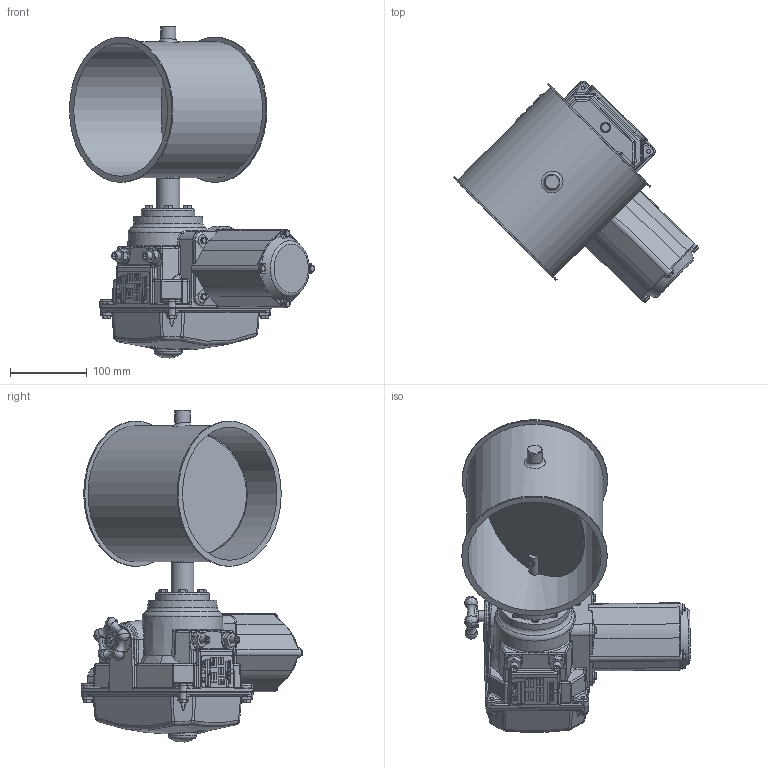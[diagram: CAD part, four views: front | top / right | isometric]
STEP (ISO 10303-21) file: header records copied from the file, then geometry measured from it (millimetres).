
FILE_DESCRIPTION((''),'2;1');
FILE_NAME('U:\Wolfgang\Marcel-3D\fertig\Kapitel 8\1721217.stp','2011-05-03T14:59:36',('TK1'),(''),'Autodesk Inventor 2010','Autodesk Inventor 2010','');
FILE_SCHEMA(('AUTOMOTIVE_DESIGN { 1 0 10303 214 1 1 1 1 }'));
Length unit declared in the file: millimetre
Products named in the file (9): 1721217; Bolzen D15; Scheibe170; DIN 6912 M6 x 16; 1721211-1; D15 Antrieb Le-4; BuchseD15 70-50; DIN EN ISO 4018 M6x25; LEB45cc
Assembly tree (13 placements, depth 3):
  1721217
    Bolzen D15  x2
    Scheibe170
    DIN 6912 M6 x 16  x2
    1721211-1
    D15 Antrieb Le-4
      BuchseD15 70-50
      DIN EN ISO 4018 M6x25  x4
      LEB45cc
Bounding box: 320.3 x 289.8 x 433.82 mm (x, y, z)
Volume: 4370779.5 mm3; surface area: 519105.4 mm2
Topology: 12 solids, 12 shells, 1478 faces, 3728 edges, 2341 vertices
Faces by surface type: plane 750, cylinder 283, bspline 237, torus 82, cone 81, sphere 45
Full cylindrical faces by diameter (mm): 3 x2, 5 x4, 5.1 x8, 6 x14, 6.9 x8, 10 x6, 14 x2, 15 x3, 15.5 x1, 16 x1, 17 x1, 18.6 x2, 20 x1, 24 x1, 30 x2, 35 x1, 42 x1, 70 x1, 170 x1, 174 x1, 178 x1, 190 x2
Entity records: 51125 total; most frequent: CARTESIAN_POINT 19094, ORIENTED_EDGE 6604, DIRECTION 5780, EDGE_CURVE 3302, VERTEX_POINT 2173, AXIS2_PLACEMENT_3D 2030, VECTOR 1720, LINE 1720
